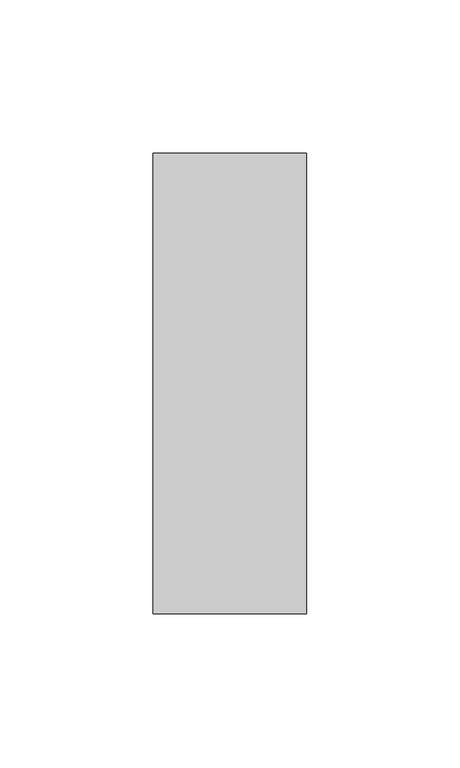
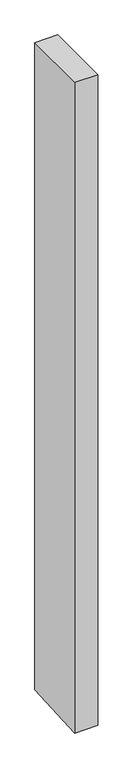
"""IFC4 building model written with IfcOpenShell, lengths in millimetres: member geometry, Прямоугольный импост : 50 x 150 мм."""

from ifc_helpers import new_model, si_unit, origin, place, context, project, spatial, faceted_brep, source, transform, mapped, element, save


def member_cf4cec98(model_context):
    return source(origin(), model_context, "Body", "Brep", [
        faceted_brep([(25.0, 75.0, 0.0), (-25.0, 75.0, 0.0), (-25.0, -75.0, 0.0), (25.0, -75.0, 0.0), (25.0, 75.0, -1484.4412085), (-25.0, 75.0, -1484.2981231), (-25.0, -75.0, -1493.1023556), (25.0, -75.0, -1493.245441)], [[[0, 1, 2, 3]], [[1, 0, 4, 5]], [[2, 1, 5, 6]], [[3, 2, 6, 7]], [[0, 3, 7, 4]], [[4, 7, 6, 5]]]),
    ])


if __name__ == "__main__":
    model = new_model("IFC4")
    model_context = context("Model", 3, world=origin())
    ifc_project = project(units=[si_unit("LENGTHUNIT", "METRE", prefix="MILLI")], contexts=[model_context])
    site = spatial("IfcSite", under=ifc_project)
    building = spatial("IfcBuilding", under=site)
    placement = place(None, origin())
    member_shape = member_cf4cec98(model_context)
    element("IfcMember", 1, ObjectType="Прямоугольный импост : 50 x 150 мм", at=placement, inside=building, context=model_context, shape_type="MappedRepresentation", body=[
        mapped(member_shape, transform((0.0, 0.0, 0.0), x_axis=(1.0, 0.0, 0.0), y_axis=(0.0, 1.0, 0.0), z_axis=(0.0, 0.0, 1.0))),
    ])
    save(model, "model.ifc")
